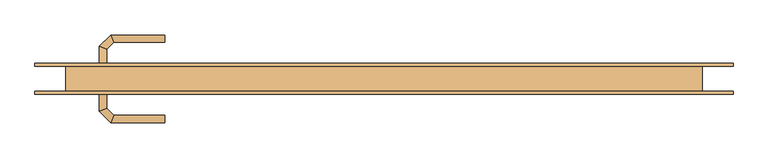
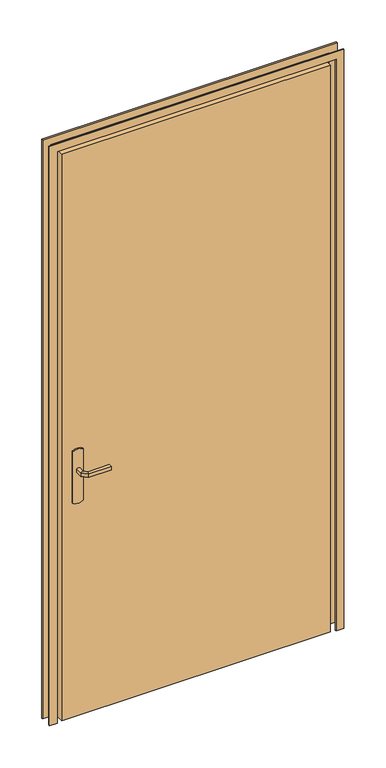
"""IFC4 building model written with IfcOpenShell, lengths in millimetres: door geometry, @_Int. Simple : @_PP (1.03m x 2.30m)."""

from ifc_helpers import new_model, si_unit, point, frame, frame_2d, origin, origin_with_axes, place, context, project, spatial, polyline, circle_curve, ellipse_curve, trimmed, segment, composite_curve, outline, extrude, source, transform, mapped, element, save
from ifc_brep_helpers import plane_surface, cylinder_surface, advanced_brep


def door_6dd767ba(model_context):
    return source(origin(), model_context, "Body", "SolidModel", [
        extrude(outline(composite_curve([segment(trimmed(circle_curve(frame_2d((904.6410162, -490.0)), 40.0), [point((870.0, -510.0))], [point((870.0, -470.0))], False, "CARTESIAN"), True, "CONTINUOUS"), segment(polyline([(870.0, -470.0), (1080.0, -470.0)]), True, "CONTINUOUS"), segment(trimmed(circle_curve(frame_2d((1045.3589838, -490.0)), 40.0), [point((1080.0, -470.0))], [point((1080.0, -510.0))], False, "CARTESIAN"), True, "CONTINUOUS"), segment(polyline([(1080.0, -510.0), (870.0, -510.0)]), True, "CONTINUOUS")], self_intersect=False)), frame((0.0, 20.0, 0.0), z_axis=(0.0, 1.0, 0.0), x_axis=(0.0, 0.0, 1.0)), (0.0, 0.0, 1.0), 5.0),
        extrude(outline(composite_curve([segment(trimmed(circle_curve(frame_2d((1045.3589838, -490.0)), 40.0), [point((1080.0, -470.0))], [point((1080.0, -510.0))], False, "CARTESIAN"), True, "CONTINUOUS"), segment(polyline([(1080.0, -510.0), (870.0, -510.0)]), True, "CONTINUOUS"), segment(trimmed(circle_curve(frame_2d((904.6410162, -490.0)), 40.0), [point((870.0, -510.0))], [point((870.0, -470.0))], False, "CARTESIAN"), True, "CONTINUOUS"), segment(polyline([(870.0, -470.0), (1080.0, -470.0)]), True, "CONTINUOUS")], self_intersect=False)), frame((0.0, -25.0, 0.0), z_axis=(0.0, 1.0, 0.0), x_axis=(0.0, 0.0, 1.0)), (0.0, 0.0, 1.0), 5.0),
        advanced_brep(
        [(-496.0, 25.0, 1007.0), (-496.0, 25.0, 993.0), (-484.0, 25.0, 993.0), (-484.0, 25.0, 1007.0), (-484.0, 47.680388, 1007.0), (-496.0, 52.6509507, 1007.0), (-484.0, 47.680388, 993.0), (-496.0, 52.6509507, 993.0), (-472.6522273, 59.0281607, 1007.0), (-477.62279, 71.0281607, 1007.0), (-472.6522273, 59.0281607, 993.0), (-477.62279, 71.0281607, 993.0), (-389.9813594, 71.0281607, 1007.0), (-389.9813594, 59.0281607, 1007.0), (-389.9813594, 59.0281607, 993.0), (-389.9813594, 71.0281607, 993.0)],
        [
            (0, 1),
            (1, 2, circle_curve(frame((-490.0, 25.0, 1013.0457722), z_axis=(0.0, -1.0, 0.0), x_axis=(1.0, 0.0, 0.0)), 20.9244589)),
            (2, 3),
            (3, 0, circle_curve(frame((-490.0, 25.0, 986.9542278), z_axis=(0.0, -1.0, 0.0), x_axis=(1.0, 0.0, 0.0)), 20.9244589)),
            (3, 4),
            (4, 5, ellipse_curve(frame((-490.0, 50.1656693, 986.9542278), z_axis=(-0.3826834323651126, -0.9238795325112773, 0.0), x_axis=(0.9238795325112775, -0.38268343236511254, 0.0)), 22.6484711, 20.9244589)),
            (5, 0),
            (2, 6),
            (6, 4),
            (1, 7),
            (7, 6, ellipse_curve(frame((-490.0, 50.1656693, 1013.0457722), z_axis=(-0.3826834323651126, -0.9238795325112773, 0.0), x_axis=(0.9238795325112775, -0.38268343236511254, 0.0)), 22.6484711, 20.9244589)),
            (5, 7),
            (4, 8),
            (8, 9, ellipse_curve(frame((-475.1375086, 65.0281607, 986.9542278), z_axis=(-0.9238795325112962, -0.38268343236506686, 0.0), x_axis=(0.3826834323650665, -0.9238795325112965, 0.0)), 22.6484711, 20.9244589)),
            (9, 5),
            (6, 10),
            (10, 8),
            (7, 11),
            (11, 10, ellipse_curve(frame((-475.1375086, 65.0281607, 1013.0457722), z_axis=(-0.9238795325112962, -0.38268343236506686, 0.0), x_axis=(0.3826834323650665, -0.9238795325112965, 0.0)), 22.6484711, 20.9244589)),
            (9, 11),
            (12, 13, circle_curve(frame((-389.9813594, 65.0281607, 986.9542278), z_axis=(1.0, 0.0, 0.0), x_axis=(0.0, -1.0, 0.0)), 20.9244589)),
            (13, 14),
            (14, 15, circle_curve(frame((-389.9813594, 65.0281607, 1013.0457722), z_axis=(1.0, 0.0, 0.0), x_axis=(0.0, -1.0, 0.0)), 20.9244589)),
            (15, 12),
            (8, 13),
            (12, 9),
            (10, 14),
            (11, 15),
        ],
        [
            plane_surface(frame((-499.2195445, 25.0, 1000.0), z_axis=(0.0, -1.0, 0.0), x_axis=(0.0, 0.0, -1.0))),
            cylinder_surface(frame((-490.0, 25.0, 986.9542278), z_axis=(0.0, -1.0, 0.0), x_axis=(1.0, 0.0, 0.0)), 20.9244589),
            plane_surface(frame((-484.0, 25.0, 1007.0), z_axis=(1.0, 0.0, 0.0), x_axis=(0.0, 1.0, 0.0))),
            cylinder_surface(frame((-490.0, 25.0, 1013.0457722), z_axis=(0.0, -1.0, 0.0), x_axis=(1.0, 0.0, 0.0)), 20.9244589),
            plane_surface(frame((-496.0, 25.0, 993.0), z_axis=(-1.0, 0.0, 0.0), x_axis=(0.0, 1.0, 0.0))),
            cylinder_surface(frame((-490.0, 50.1656693, 986.9542278), z_axis=(-0.7071067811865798, -0.7071067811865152, 0.0), x_axis=(0.7071067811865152, -0.7071067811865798, 0.0)), 20.9244589),
            plane_surface(frame((-484.0, 47.680388, 1007.0), z_axis=(0.7071067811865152, -0.7071067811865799, 0.0), x_axis=(0.7071067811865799, 0.7071067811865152, 0.0))),
            cylinder_surface(frame((-490.0, 50.1656693, 1013.0457722), z_axis=(-0.7071067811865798, -0.7071067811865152, 0.0), x_axis=(0.7071067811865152, -0.7071067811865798, 0.0)), 20.9244589),
            plane_surface(frame((-496.0, 52.6509507, 993.0), z_axis=(-0.7071067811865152, 0.7071067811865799, 0.0), x_axis=(0.7071067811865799, 0.7071067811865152, 0.0))),
            plane_surface(frame((-389.9813594, 65.0281607, 990.7804555), z_axis=(1.0, 0.0, 0.0), x_axis=(0.0, -1.0, 0.0))),
            cylinder_surface(frame((-475.1375086, 65.0281607, 986.9542278), z_axis=(-1.0, 0.0, 0.0), x_axis=(0.0, -1.0, 0.0)), 20.9244589),
            plane_surface(frame((-472.6522273, 59.0281607, 1007.0), z_axis=(0.0, -1.0, 0.0), x_axis=(1.0, 0.0, 0.0))),
            cylinder_surface(frame((-475.1375086, 65.0281607, 1013.0457722), z_axis=(-1.0, 0.0, 0.0), x_axis=(0.0, -1.0, 0.0)), 20.9244589),
            plane_surface(frame((-477.62279, 71.0281607, 993.0), z_axis=(0.0, 1.0, 0.0), x_axis=(1.0, 0.0, 0.0))),
        ],
        [
            (0, [[1, 2, 3, 4]]),
            (1, [[5, 6, 7, -4]]),
            (2, [[8, 9, -5, -3]]),
            (3, [[10, 11, -8, -2]]),
            (4, [[-7, 12, -10, -1]]),
            (5, [[13, 14, 15, -6]]),
            (6, [[16, 17, -13, -9]]),
            (7, [[18, 19, -16, -11]]),
            (8, [[-15, 20, -18, -12]]),
            (9, [[21, 22, 23, 24]]),
            (10, [[25, -21, 26, -14]]),
            (11, [[27, -22, -25, -17]]),
            (12, [[28, -23, -27, -19]]),
            (13, [[-26, -24, -28, -20]]),
        ],
    ),
        advanced_brep(
        [(-484.0, -25.0, 993.0), (-496.0, -25.0, 993.0), (-496.0, -25.0, 1007.0), (-484.0, -25.0, 1007.0), (-484.0, -47.4852045, 1007.0), (-484.0, -47.4852045, 993.0), (-496.0, -52.4557673, 1007.0), (-496.0, -52.4557673, 993.0), (-472.5147186, -58.9704859, 1007.0), (-472.5147186, -58.9704859, 993.0), (-477.4852814, -70.9704859, 1007.0), (-477.4852814, -70.9704859, 993.0), (-389.9542163, -58.9704859, 993.0), (-389.9542163, -58.9704859, 1007.0), (-389.9542163, -70.9704859, 1007.0), (-389.9542163, -70.9704859, 993.0)],
        [
            (0, 1, circle_curve(frame((-490.0, -25.0, 1013.0457722), z_axis=(0.0, 1.0, 0.0), x_axis=(-1.0, 0.0, 0.0)), 20.9244589)),
            (1, 2),
            (2, 3, circle_curve(frame((-490.0, -25.0, 986.9542278), z_axis=(0.0, 1.0, 0.0), x_axis=(-1.0, 0.0, 0.0)), 20.9244589)),
            (3, 0),
            (3, 4),
            (4, 5),
            (5, 0),
            (2, 6),
            (6, 4, ellipse_curve(frame((-490.0, -49.9704859, 986.9542278), z_axis=(-0.3826834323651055, 0.9238795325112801, 0.0), x_axis=(0.9238795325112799, 0.3826834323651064, 0.0)), 22.6484711, 20.9244589)),
            (1, 7),
            (7, 6),
            (5, 7, ellipse_curve(frame((-490.0, -49.9704859, 1013.0457722), z_axis=(-0.3826834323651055, 0.9238795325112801, 0.0), x_axis=(0.9238795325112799, 0.3826834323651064, 0.0)), 22.6484711, 20.9244589)),
            (4, 8),
            (8, 9),
            (9, 5),
            (6, 10),
            (10, 8, ellipse_curve(frame((-475.0, -64.9704859, 986.9542278), z_axis=(-0.9238795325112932, 0.382683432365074, 0.0), x_axis=(0.3826834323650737, 0.9238795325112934, 0.0)), 22.6484711, 20.9244589)),
            (7, 11),
            (11, 10),
            (9, 11, ellipse_curve(frame((-475.0, -64.9704859, 1013.0457722), z_axis=(-0.9238795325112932, 0.382683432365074, 0.0), x_axis=(0.3826834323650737, 0.9238795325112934, 0.0)), 22.6484711, 20.9244589)),
            (12, 13),
            (13, 14, circle_curve(frame((-389.9542163, -64.9704859, 986.9542278), z_axis=(1.0, 0.0, 0.0), x_axis=(0.0, -1.0, 0.0)), 20.9244589)),
            (14, 15),
            (15, 12, circle_curve(frame((-389.9542163, -64.9704859, 1013.0457722), z_axis=(1.0, 0.0, 0.0), x_axis=(0.0, -1.0, 0.0)), 20.9244589)),
            (8, 13),
            (12, 9),
            (10, 14),
            (11, 15),
        ],
        [
            plane_surface(frame((-499.2195445, -25.0, 1000.0), z_axis=(0.0, 1.0, 0.0), x_axis=(0.0, 0.0, 1.0))),
            plane_surface(frame((-484.0, -25.0, 993.0), z_axis=(1.0, 0.0, 0.0), x_axis=(0.0, -1.0, 0.0))),
            cylinder_surface(frame((-490.0, -25.0, 986.9542278), z_axis=(0.0, 1.0, 0.0), x_axis=(-1.0, 0.0, 0.0)), 20.9244589),
            plane_surface(frame((-496.0, -25.0, 1007.0), z_axis=(-1.0, 0.0, 0.0), x_axis=(0.0, -1.0, 0.0))),
            cylinder_surface(frame((-490.0, -25.0, 1013.0457722), z_axis=(0.0, 1.0, 0.0), x_axis=(-1.0, 0.0, 0.0)), 20.9244589),
            plane_surface(frame((-484.0, -47.4852045, 993.0), z_axis=(0.7071067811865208, 0.7071067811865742, 0.0), x_axis=(0.7071067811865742, -0.7071067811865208, 0.0))),
            cylinder_surface(frame((-490.0, -49.9704859, 986.9542278), z_axis=(-0.7071067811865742, 0.7071067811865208, 0.0), x_axis=(-0.7071067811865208, -0.7071067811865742, 0.0)), 20.9244589),
            plane_surface(frame((-496.0, -52.4557673, 1007.0), z_axis=(-0.7071067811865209, -0.7071067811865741, 0.0), x_axis=(0.7071067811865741, -0.7071067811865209, 0.0))),
            cylinder_surface(frame((-490.0, -49.9704859, 1013.0457722), z_axis=(-0.7071067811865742, 0.7071067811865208, 0.0), x_axis=(-0.7071067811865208, -0.7071067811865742, 0.0)), 20.9244589),
            plane_surface(frame((-389.9542163, -64.9704859, 990.7804555), z_axis=(1.0, 0.0, 0.0), x_axis=(0.0, -1.0, 0.0))),
            plane_surface(frame((-472.5147186, -58.9704859, 993.0), z_axis=(0.0, 1.0, 0.0), x_axis=(1.0, 0.0, 0.0))),
            cylinder_surface(frame((-475.0, -64.9704859, 986.9542278), z_axis=(-1.0, 0.0, 0.0), x_axis=(0.0, -1.0, 0.0)), 20.9244589),
            plane_surface(frame((-477.4852814, -70.9704859, 1007.0), z_axis=(0.0, -1.0, 0.0), x_axis=(1.0, 0.0, 0.0))),
            cylinder_surface(frame((-475.0, -64.9704859, 1013.0457722), z_axis=(-1.0, 0.0, 0.0), x_axis=(0.0, -1.0, 0.0)), 20.9244589),
        ],
        [
            (0, [[1, 2, 3, 4]]),
            (1, [[5, 6, 7, -4]]),
            (2, [[8, 9, -5, -3]]),
            (3, [[10, 11, -8, -2]]),
            (4, [[-7, 12, -10, -1]]),
            (5, [[13, 14, 15, -6]]),
            (6, [[16, 17, -13, -9]]),
            (7, [[18, 19, -16, -11]]),
            (8, [[-15, 20, -18, -12]]),
            (9, [[21, 22, 23, 24]]),
            (10, [[25, -21, 26, -14]]),
            (11, [[27, -22, -25, -17]]),
            (12, [[28, -23, -27, -19]]),
            (13, [[-26, -24, -28, -20]]),
        ],
    ),
        extrude(outline(polyline([(-550.0, -20.0), (-550.0, 20.0), (480.0, 20.0), (480.0, -20.0), (-550.0, -20.0)])), origin_with_axes(), (0.0, 0.0, 1.0), 2300.0),
        extrude(outline(polyline([(0.0, -570.0), (2320.0, -570.0), (2320.0, 500.0), (0.0, 500.0), (0.0, 530.0), (2350.0, 530.0), (2350.0, -600.0), (0.0, -600.0), (0.0, -570.0)])), frame((0.0, 20.0, 0.0), z_axis=(0.0, 1.0, 0.0), x_axis=(0.0, 0.0, 1.0)), (0.0, 0.0, 1.0), 5.0),
        extrude(outline(polyline([(0.0, -570.0), (2320.0, -570.0), (2320.0, 500.0), (0.0, 500.0), (0.0, 530.0), (2350.0, 530.0), (2350.0, -600.0), (0.0, -600.0), (0.0, -570.0)])), frame((0.0, -25.0, 0.0), z_axis=(0.0, 1.0, 0.0), x_axis=(0.0, 0.0, 1.0)), (0.0, 0.0, 1.0), 5.0),
    ])


if __name__ == "__main__":
    model = new_model("IFC4")
    model_context = context("Model", 3, world=origin())
    ifc_project = project(units=[si_unit("LENGTHUNIT", "METRE", prefix="MILLI")], contexts=[model_context])
    site = spatial("IfcSite", under=ifc_project)
    building = spatial("IfcBuilding", under=site)
    placement = place(None, origin())
    door_shape = door_6dd767ba(model_context)
    element("IfcDoor", 1, ObjectType="@_Int. Simple : @_PP (1.03m x 2.30m)", at=placement, inside=building, context=model_context, shape_type="MappedRepresentation", body=[
        mapped(door_shape, transform((0.0, 0.0, 0.0), x_axis=(1.0, 0.0, 0.0), y_axis=(0.0, 1.0, 0.0), z_axis=(0.0, 0.0, 1.0))),
    ])
    save(model, "model.ifc")
